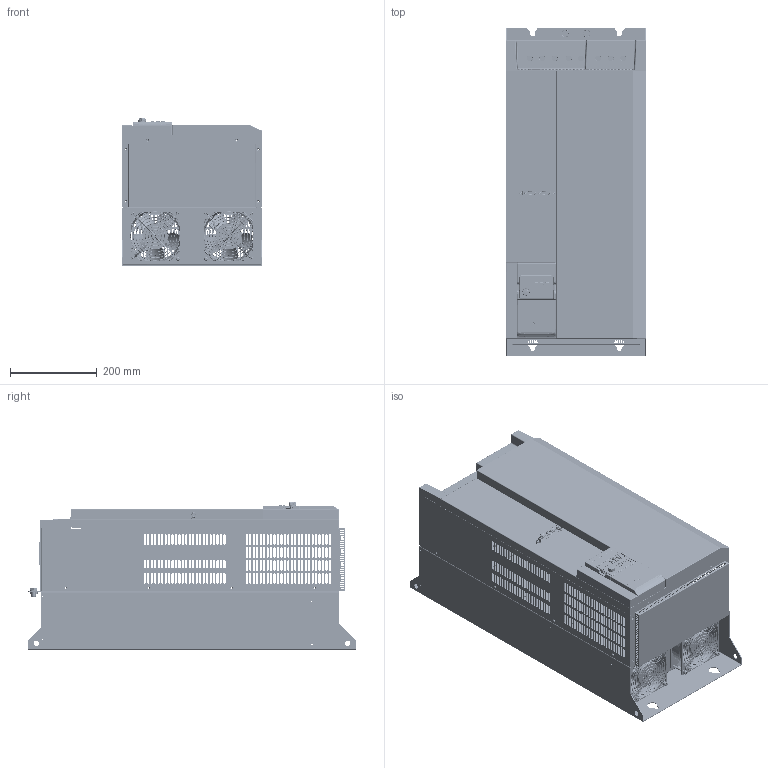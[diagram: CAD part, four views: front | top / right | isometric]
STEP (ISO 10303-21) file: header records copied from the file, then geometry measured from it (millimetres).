
FILE_DESCRIPTION((''),'2;1');
FILE_NAME('VFC5610-75K0-3P4-MNA-XX-NNNNN-N','2023-03-27T11:22:15',('ZUX1XI'),(''),'CREO PARAMETRIC BY PTC INC, 2021072','CREO PARAMETRIC BY PTC INC, 2021072','');
FILE_SCHEMA(('AUTOMOTIVE_DESIGN { 1 0 10303 214 1 1 1 1 }'));
Products named in the file (80): MANIFOLD_SOLID_BREP_5753_1; VFC5610_90KW_BASE_P1_17_1; MANIFOLD_SOLID_BREP_10340_1; VFC5610_90KW_BASE_P2_13_1; VFC5610_90KW_BASE_P4_22_1; HOUING_PART_VFC5610_90KW_BASE_2; MANIFOLD_SOLID_BREP_54821_1; HOLDER_VFC5610_90KW_23_1; MANIFOLD_SOLID_BREP_95051_1; VFC5610_90KW_RIGHT_P1_27_1; VFC5610_90KW_RIGHT_P2_16_1; HOUING_PART_VFC5610_90KW_RIGHT_; MANIFOLD_SOLID_BREP_130316_1; VFC5610_90KW_TOP_13_1; MANIFOLD_SOLID_BREP_165147_1; VFC5610_90KW_LEFT_P1_32_1; HOUSING_PART_VFC5610_90KW_LEFT_; VFC5610_90KW_BOTTOM_5_1; MANIFOLD_SOLID_BREP_410340_1; MANIFOLD_SOLID_BREP_411111_1; MANIFOLD_SOLID_BREP_413158_1; MANIFOLD_SOLID_BREP_414030_1; MANIFOLD_SOLID_BREP_414287_1; MANIFOLD_SOLID_BREP_414544_1; MANIFOLD_SOLID_BREP_414801_1; VFC5610_90KW_TOP_COVER_P1_32_1; VFC5610_90KW_TOP_COVER_22_1; X610_37_IO_BASE-20150120_13_1; PL_EFC5610_IOCAE_CONVER_12_1; CPU_CONNECTOR-14P_11_1; 548190519_11_1; 1155590000_11_1; LK_YCP06_11_1; 01-IOBACK_CASE_12_1; 01-IOCASE_11_1; 01_DISPLAYCASE_11_1; LED_11_1; DISPLAY_PCB_11_1; BACK_CASE1_11_1; R911330333_FOLIE_11_1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
Assembly tree (99 placements, depth 7):
  VFC5610-75K0-3P4-MNA-XX-NNNNN-N
    00_VFC5610_90_1
      00_VFC5610_90_102_1
        HOUING_PART_VFC5610_90KW_BASE_2
          VFC5610_90KW_BASE_P1_17_1
            MANIFOLD_SOLID_BREP_5753_1
          VFC5610_90KW_BASE_P2_13_1
            MANIFOLD_SOLID_BREP_10340_1
          VFC5610_90KW_BASE_P4_22_1
        HOLDER_VFC5610_90KW_23_1
          MANIFOLD_SOLID_BREP_54821_1
        HOUING_PART_VFC5610_90KW_RIGHT_
          VFC5610_90KW_RIGHT_P1_27_1
            MANIFOLD_SOLID_BREP_95051_1
          VFC5610_90KW_RIGHT_P2_16_1
        VFC5610_90KW_TOP_13_1
          MANIFOLD_SOLID_BREP_130316_1
        HOUSING_PART_VFC5610_90KW_LEFT_
          VFC5610_90KW_LEFT_P1_32_1
            MANIFOLD_SOLID_BREP_165147_1
          VFC5610_90KW_RIGHT_P2_16_1
        VFC5610_90KW_BOTTOM_5_1
        VFC5610_90KW_TOP_COVER_WP_14_1
          VFC5610_90KW_TOP_COVER_22_1
            VFC5610_90KW_TOP_COVER_P1_32_1
              MANIFOLD_SOLID_BREP_410340_1
              MANIFOLD_SOLID_BREP_411111_1
              MANIFOLD_SOLID_BREP_413158_1
              MANIFOLD_SOLID_BREP_414030_1
              MANIFOLD_SOLID_BREP_414287_1
              MANIFOLD_SOLID_BREP_414544_1
              MANIFOLD_SOLID_BREP_414801_1
          X610_37_IO_BASE-20150120_13_1
          01-IOCASE_11_1
            PL_EFC5610_IOCAE_CONVER_12_1
            LK_YCP06_11_1
              CPU_CONNECTOR-14P_11_1
              548190519_11_1
              1155590000_11_1
            01-IOBACK_CASE_12_1
          02-DISPLAY-CASE_11_1
            01_DISPLAYCASE_11_1
            DISPLAY_PCB_11_1
              LED_11_1
            BACK_CASE1_11_1
            R911330333_FOLIE_11_1
            BUUTTON_11_1
            XUAN_NIU_11_1
          E_CONNECTOR_2X5_SCREW_11_1
        FAN_ADDA_AD1224UB-F51_12_1  x2
        R912006638_4_1  x2
          FJZJ-105_12_1
            MANIFOLD_SOLID_BREP_1328838_1
            MANIFOLD_SOLID_BREP_1328975_1
            MANIFOLD_SOLID_BREP_1329112_1
            MANIFOLD_SOLID_BREP_1330111_1
            MANIFOLD_SOLID_BREP_1331110_1
            MANIFOLD_SOLID_BREP_1331247_1
            MANIFOLD_SOLID_BREP_1331384_1
            MANIFOLD_SOLID_BREP_1331521_1
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Bounding box: 325.03 x 760 x 341.24 mm (x, y, z)
Volume: 2528971.8 mm3; surface area: 2994987.7 mm2
Topology: 87 solids, 93 shells, 13961 faces, 38597 edges, 24757 vertices
Faces by surface type: plane 6473, cylinder 5113, bspline 1042, torus 762, cone 263, sphere 203, extrusion 105
Entity records: 529367 total; most frequent: CARTESIAN_POINT 132041, ORIENTED_EDGE 61440, DIRECTION 58866, PRESENTATION_STYLE_ASSIGNMENT 31800, STYLED_ITEM 30774, CURVE_STYLE 30720, EDGE_CURVE 30720, VERTEX_POINT 19814
